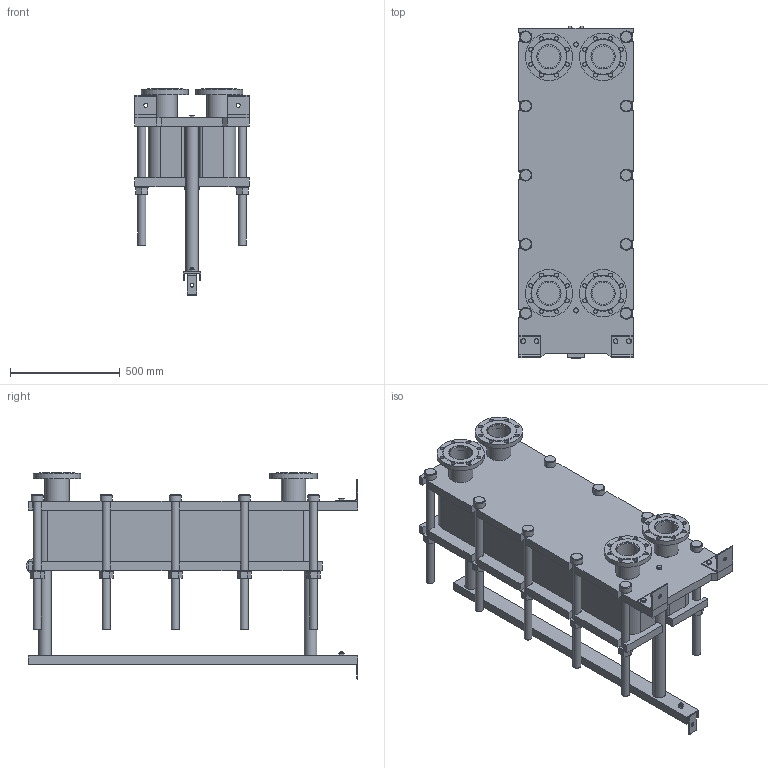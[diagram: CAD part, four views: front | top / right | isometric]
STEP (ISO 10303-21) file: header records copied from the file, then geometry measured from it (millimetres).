
FILE_DESCRIPTION(/* description */ (''),/* implementation_level */ '2;1');
FILE_NAME(/* name */ 'C:\Users\zhuro\Desktop\ENCO\TO\ЭН-04\ЭН-0,5-04-68-1.stp',/* time_stamp */ '2022-06-06T10:50:26+03:00',/* author */ ('zhuro'),/* organization */ (''),/* preprocessor_version */ 'ST-DEVELOPER v18.1',/* originating_system */ 'Autodesk Inventor 2022',/* authorisation */ '');
FILE_SCHEMA (('AUTOMOTIVE_DESIGN { 1 0 10303 214 3 1 1 }'));
Length unit declared in the file: millimetre
Products named in the file (1): ЭН-0,5-04-68-1
Bounding box: 520 x 1510 x 939 mm (x, y, z)
Volume: 186726011.4 mm3; surface area: 7651578.9 mm2
Topology: 45 solids, 45 shells, 668 faces, 1611 edges, 1048 vertices
Faces by surface type: plane 457, cylinder 166, cone 39, torus 6
Full cylindrical faces by diameter (mm): 8 x4, 10 x2, 16 x8, 18 x35, 36 x25, 40 x2, 42 x1, 45 x4, 54 x10, 57 x2, 60 x10, 68 x2, 100 x4, 110 x8, 215 x4
Entity records: 23607 total; most frequent: CARTESIAN_POINT 7348, DIRECTION 3371, ORIENTED_EDGE 3142, EDGE_CURVE 1571, AXIS2_PLACEMENT_3D 1199, VERTEX_POINT 1044, LINE 973, VECTOR 973
